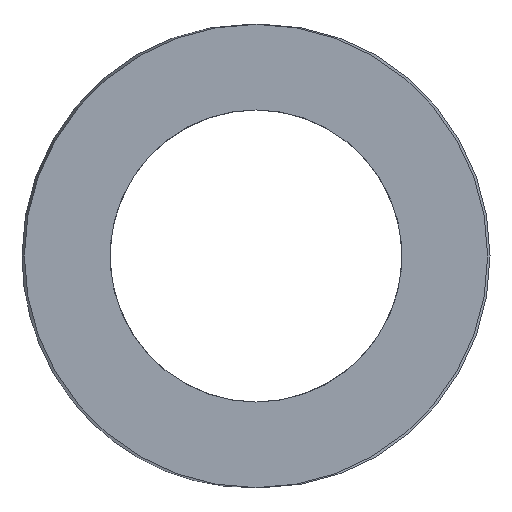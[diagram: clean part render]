
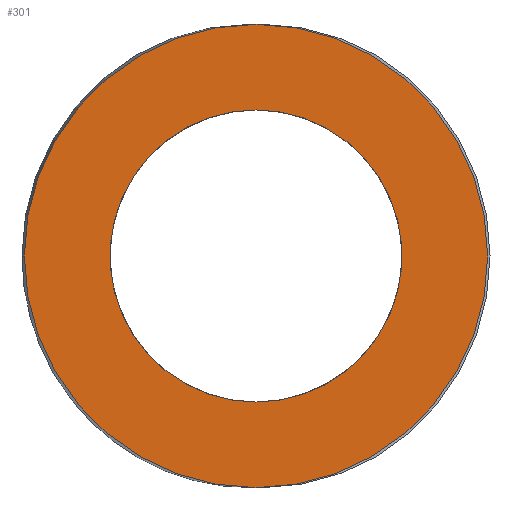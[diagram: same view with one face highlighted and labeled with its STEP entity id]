
A CAD part, left-side view. The second image highlights one B-rep face of the part: STEP entity #301.
In plain terms, the highlighted planar face has unit normal (-1, 0, 0).
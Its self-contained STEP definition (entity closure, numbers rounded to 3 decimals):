
#63=CARTESIAN_POINT('Vertex',(0.,31.1,0.)) ;
#77=CARTESIAN_POINT('Vertex',(0.,-31.1,0.)) ;
#80=CARTESIAN_POINT('Axis2P3D Location',(0.,0.,0.)) ;
#97=CARTESIAN_POINT('Axis2P3D Location',(0.,0.,0.)) ;
#232=CARTESIAN_POINT('Axis2P3D Location',(0.,15.55,0.)) ;
#242=CARTESIAN_POINT('Control Point',(0.,0.,-19.6)) ;
#243=CARTESIAN_POINT('Control Point',(0.,1.952,-19.6)) ;
#244=CARTESIAN_POINT('Control Point',(0.,3.904,-19.357)) ;
#245=CARTESIAN_POINT('Control Point',(0.,5.816,-18.871)) ;
#246=CARTESIAN_POINT('Control Point',(0.,9.478,-17.433)) ;
#247=CARTESIAN_POINT('Control Point',(0.,12.675,-15.142)) ;
#248=CARTESIAN_POINT('Control Point',(0.,14.123,-13.802)) ;
#249=CARTESIAN_POINT('Control Point',(0.,16.653,-10.789)) ;
#250=CARTESIAN_POINT('Control Point',(0.,18.368,-7.249)) ;
#251=CARTESIAN_POINT('Control Point',(0.,19.,-5.38)) ;
#252=CARTESIAN_POINT('Control Point',(0.,19.784,-1.525)) ;
#253=CARTESIAN_POINT('Control Point',(0.,19.6,2.405)) ;
#254=CARTESIAN_POINT('Control Point',(0.,19.262,4.348)) ;
#255=CARTESIAN_POINT('Control Point',(0.,18.11,8.11)) ;
#256=CARTESIAN_POINT('Control Point',(0.,16.071,11.474)) ;
#257=CARTESIAN_POINT('Control Point',(0.,14.846,13.02)) ;
#258=CARTESIAN_POINT('Control Point',(0.,12.037,15.775)) ;
#259=CARTESIAN_POINT('Control Point',(0.,8.639,17.757)) ;
#260=CARTESIAN_POINT('Control Point',(0.,6.824,18.53)) ;
#261=CARTESIAN_POINT('Control Point',(0.,4.349,19.236)) ;
#262=CARTESIAN_POINT('Control Point',(0.,1.809,19.53)) ;
#263=CARTESIAN_POINT('Control Point',(0.,1.206,19.577)) ;
#264=CARTESIAN_POINT('Control Point',(0.,0.603,19.6)) ;
#265=CARTESIAN_POINT('Control Point',(0.,0.,19.6)) ;
#266=CARTESIAN_POINT('Vertex',(0.,0.,-19.6)) ;
#268=CARTESIAN_POINT('Vertex',(0.,0.,19.6)) ;
#272=CARTESIAN_POINT('Control Point',(0.,0.,19.6)) ;
#273=CARTESIAN_POINT('Control Point',(0.,-1.952,19.6)) ;
#274=CARTESIAN_POINT('Control Point',(0.,-3.904,19.357)) ;
#275=CARTESIAN_POINT('Control Point',(0.,-5.816,18.871)) ;
#276=CARTESIAN_POINT('Control Point',(0.,-9.478,17.433)) ;
#277=CARTESIAN_POINT('Control Point',(0.,-12.675,15.142)) ;
#278=CARTESIAN_POINT('Control Point',(0.,-14.123,13.802)) ;
#279=CARTESIAN_POINT('Control Point',(0.,-16.653,10.789)) ;
#280=CARTESIAN_POINT('Control Point',(0.,-18.368,7.249)) ;
#281=CARTESIAN_POINT('Control Point',(0.,-19.,5.38)) ;
#282=CARTESIAN_POINT('Control Point',(0.,-19.784,1.525)) ;
#283=CARTESIAN_POINT('Control Point',(0.,-19.6,-2.405)) ;
#284=CARTESIAN_POINT('Control Point',(0.,-19.262,-4.348)) ;
#285=CARTESIAN_POINT('Control Point',(0.,-18.11,-8.11)) ;
#286=CARTESIAN_POINT('Control Point',(0.,-16.071,-11.474)) ;
#287=CARTESIAN_POINT('Control Point',(0.,-14.846,-13.02)) ;
#288=CARTESIAN_POINT('Control Point',(0.,-12.037,-15.775)) ;
#289=CARTESIAN_POINT('Control Point',(0.,-8.639,-17.757)) ;
#290=CARTESIAN_POINT('Control Point',(0.,-6.824,-18.53)) ;
#291=CARTESIAN_POINT('Control Point',(0.,-4.349,-19.236)) ;
#292=CARTESIAN_POINT('Control Point',(0.,-1.809,-19.53)) ;
#293=CARTESIAN_POINT('Control Point',(0.,-1.206,-19.577)) ;
#294=CARTESIAN_POINT('Control Point',(0.,-0.603,-19.6)) ;
#295=CARTESIAN_POINT('Control Point',(0.,0.,-19.6)) ;
#81=DIRECTION('Axis2P3D Direction',(1.,-0.,0.)) ;
#98=DIRECTION('Axis2P3D Direction',(1.,-0.,0.)) ;
#233=DIRECTION('Axis2P3D Direction',(-1.,0.,0.)) ;
#234=DIRECTION('Axis2P3D XDirection',(0.,1.,0.)) ;
#82=AXIS2_PLACEMENT_3D('Circle Axis2P3D',#80,#81,$) ;
#99=AXIS2_PLACEMENT_3D('Circle Axis2P3D',#97,#98,$) ;
#235=AXIS2_PLACEMENT_3D('Plane Axis2P3D',#232,#233,#234) ;
#238=ORIENTED_EDGE('',*,*,#84,.T.) ;
#239=ORIENTED_EDGE('',*,*,#101,.T.) ;
#298=ORIENTED_EDGE('',*,*,#270,.T.) ;
#299=ORIENTED_EDGE('',*,*,#296,.T.) ;
#300=FACE_BOUND('',#297,.T.) ;
#301=ADVANCED_FACE('392-B63-102',(#240,#300),#236,.T.) ;
#241=B_SPLINE_CURVE_WITH_KNOTS('',5,(#242,#243,#244,#245,#246,#247,#248,#249,#250,#251,#252,#253,#254,#255,#256,#257,#258,#259,#260,#261,#262,#263,#264,#265),.UNSPECIFIED.,.F.,.U.,(6,3,3,3,3,3,3,6),(0.,13.802,27.605,41.407,55.21,69.012,82.815,87.077),.UNSPECIFIED.) ;
#271=B_SPLINE_CURVE_WITH_KNOTS('',5,(#272,#273,#274,#275,#276,#277,#278,#279,#280,#281,#282,#283,#284,#285,#286,#287,#288,#289,#290,#291,#292,#293,#294,#295),.UNSPECIFIED.,.F.,.U.,(6,3,3,3,3,3,3,6),(0.,13.802,27.605,41.407,55.21,69.012,82.815,87.077),.UNSPECIFIED.) ;
#83=CIRCLE('generated circle',#82,31.1) ;
#100=CIRCLE('generated circle',#99,31.1) ;
#84=EDGE_CURVE('',#64,#78,#83,.F.) ;
#101=EDGE_CURVE('',#78,#64,#100,.F.) ;
#270=EDGE_CURVE('',#267,#269,#241,.T.) ;
#296=EDGE_CURVE('',#269,#267,#271,.T.) ;
#237=EDGE_LOOP('',(#238,#239)) ;
#297=EDGE_LOOP('',(#298,#299)) ;
#240=FACE_OUTER_BOUND('',#237,.T.) ;
#236=PLANE('Plane',#235) ;
#64=VERTEX_POINT('',#63) ;
#78=VERTEX_POINT('',#77) ;
#267=VERTEX_POINT('',#266) ;
#269=VERTEX_POINT('',#268) ;
